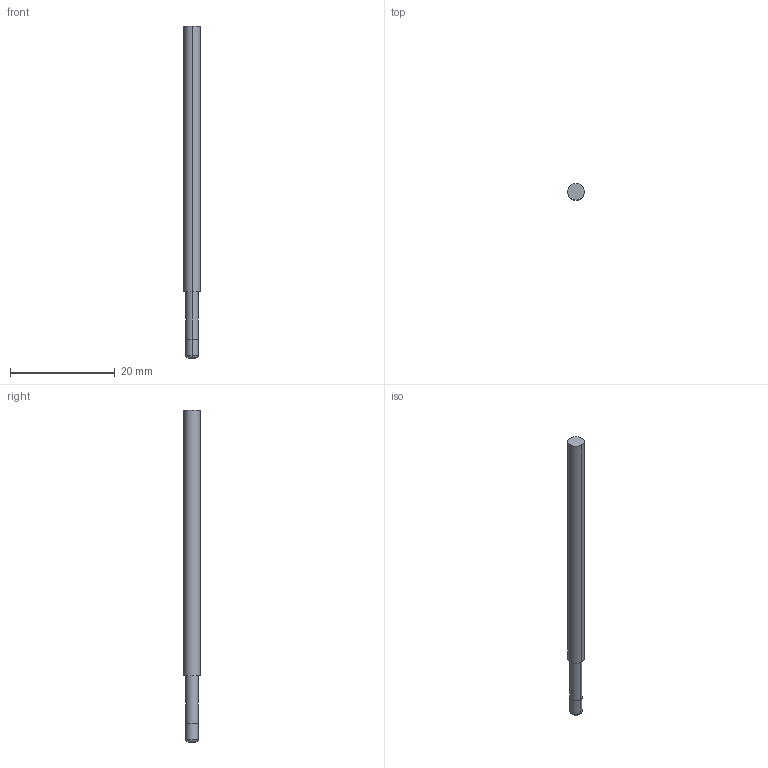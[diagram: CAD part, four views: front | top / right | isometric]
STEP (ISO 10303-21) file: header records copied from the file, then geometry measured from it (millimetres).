
FILE_DESCRIPTION((' '),'2;1');
FILE_NAME( '3MVS0938R.020N5AH.stp', '2026-01-21T19:26:10', (' '), ('--- Datakit www.datakit.com---'), ' Datakit CrossCadWare V2025.4 Sep 19 2025', 'Mastercam 2027', ' ');
FILE_SCHEMA(('AUTOMOTIVE_DESIGN { 1 0 10303 214 1 1 1 1 }'));
Length unit declared in the file: inch
Products named in the file (1): 3MVS0938R
Bounding box: 3.17 x 3.17 x 63.5 mm (x, y, z)
Volume: 458.4 mm3; surface area: 615.9 mm2
Topology: 1 solids, 1 shells, 11 faces, 20 edges, 12 vertices
Faces by surface type: cylinder 6, plane 3, torus 2
Entity records: 356 total; most frequent: DIRECTION 66, CARTESIAN_POINT 48, ORIENTED_EDGE 40, AXIS2_PLACEMENT_3D 30, EDGE_CURVE 20, CIRCLE 14, VERTEX_POINT 12, EDGE_LOOP 12
